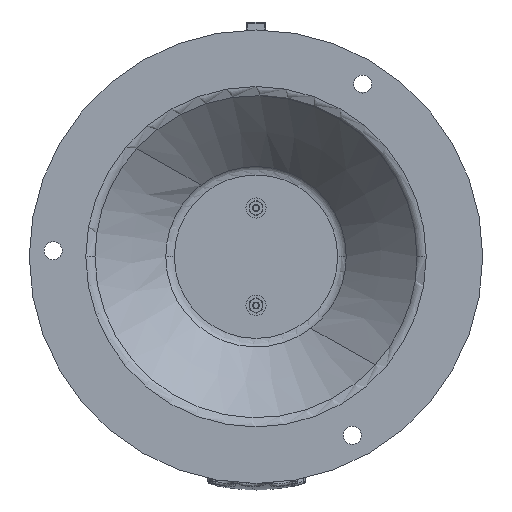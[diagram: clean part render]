
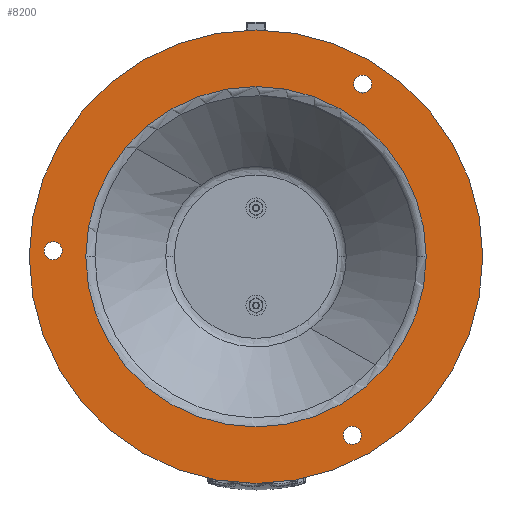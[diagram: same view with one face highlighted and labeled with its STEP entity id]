
A CAD part, front view. The second image highlights one B-rep face of the part: STEP entity #8200.
In plain terms, the highlighted planar face has unit normal (0, -1, 0).
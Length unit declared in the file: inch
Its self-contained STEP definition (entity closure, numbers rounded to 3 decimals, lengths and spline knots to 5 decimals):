
#142 = CARTESIAN_POINT ( 'NONE',  ( 0., -2.425, 0. ) ) ;
#488 = CARTESIAN_POINT ( 'NONE',  ( 0., -2.425, -6.28125 ) ) ;
#711 = DIRECTION ( 'NONE',  ( 0., -1., 0. ) ) ;
#714 = EDGE_CURVE ( 'NONE', #4309, #43173, #29360, .T. ) ;
#1854 = DIRECTION ( 'NONE',  ( 0., 1., 0. ) ) ;
#2339 = CARTESIAN_POINT ( 'NONE',  ( 0., -2.425, 0. ) ) ;
#2499 = AXIS2_PLACEMENT_3D ( 'NONE', #22977, #1854, #26471 ) ;
#2850 = CARTESIAN_POINT ( 'NONE',  ( -4.78341, -2.425, 2.95253 ) ) ;
#2861 = VERTEX_POINT ( 'NONE', #22207 ) ;
#3419 = CARTESIAN_POINT ( 'NONE',  ( 0., -2.425, 4.71475 ) ) ;
#3597 = CARTESIAN_POINT ( 'NONE',  ( -0.16527, -2.425, -5.86882 ) ) ;
#3683 = DIRECTION ( 'NONE',  ( 0., 0., -1. ) ) ;
#4042 = EDGE_LOOP ( 'NONE', ( #17242, #41869 ) ) ;
#4309 = VERTEX_POINT ( 'NONE', #25353 ) ;
#4894 = CIRCLE ( 'NONE', #18032, 0.25 ) ;
#5023 = CIRCLE ( 'NONE', #14653, 4.71475 ) ;
#5264 = VERTEX_POINT ( 'NONE', #11408 ) ;
#5853 = DIRECTION ( 'NONE',  ( 0., 0., -1. ) ) ;
#6358 = DIRECTION ( 'NONE',  ( 0., 0., 1. ) ) ;
#6578 = CIRCLE ( 'NONE', #36205, 6.28125 ) ;
#7088 = CIRCLE ( 'NONE', #29160, 6.28125 ) ;
#7112 = FACE_OUTER_BOUND ( 'NONE', #36425, .T. ) ;
#8200 = ADVANCED_FACE ( 'NONE', ( #44595, #35223, #25861, #16534, #7112 ), #10686, .T. ) ;
#8241 = DIRECTION ( 'NONE',  ( 0., 1., 0. ) ) ;
#8691 = VERTEX_POINT ( 'NONE', #488 ) ;
#9745 = EDGE_CURVE ( 'NONE', #18243, #5264, #40597, .T. ) ;
#10686 = PLANE ( 'NONE',  #31858 ) ;
#11408 = CARTESIAN_POINT ( 'NONE',  ( -4.78341, -2.425, 2.70253 ) ) ;
#11630 = EDGE_CURVE ( 'NONE', #43173, #4309, #43781, .T. ) ;
#12847 = DIRECTION ( 'NONE',  ( 0., 1., 0. ) ) ;
#13555 = CARTESIAN_POINT ( 'NONE',  ( -4.78341, -2.425, 3.20253 ) ) ;
#13865 = DIRECTION ( 'NONE',  ( 0., -1., 0. ) ) ;
#14413 = DIRECTION ( 'NONE',  ( 0., -1., 0. ) ) ;
#14653 = AXIS2_PLACEMENT_3D ( 'NONE', #142, #24777, #3683 ) ;
#14692 = DIRECTION ( 'NONE',  ( 0., 1., 0. ) ) ;
#15892 = DIRECTION ( 'NONE',  ( 0., 1., 0. ) ) ;
#16407 = VERTEX_POINT ( 'NONE', #25962 ) ;
#16534 = FACE_BOUND ( 'NONE', #35202, .T. ) ;
#17242 = ORIENTED_EDGE ( 'NONE', *, *, #9745, .T. ) ;
#18032 = AXIS2_PLACEMENT_3D ( 'NONE', #33916, #12847, #37482 ) ;
#18243 = VERTEX_POINT ( 'NONE', #13555 ) ;
#20184 = EDGE_CURVE ( 'NONE', #43761, #16407, #5023, .T. ) ;
#21598 = EDGE_LOOP ( 'NONE', ( #23614, #27538 ) ) ;
#21738 = EDGE_CURVE ( 'NONE', #8691, #27421, #6578, .T. ) ;
#21845 = CARTESIAN_POINT ( 'NONE',  ( 0., -2.425, 0. ) ) ;
#22207 = CARTESIAN_POINT ( 'NONE',  ( -0.16527, -2.425, -5.36882 ) ) ;
#22977 = CARTESIAN_POINT ( 'NONE',  ( -4.78341, -2.425, 2.95253 ) ) ;
#23235 = AXIS2_PLACEMENT_3D ( 'NONE', #35750, #14692, #39300 ) ;
#23495 = ORIENTED_EDGE ( 'NONE', *, *, #24793, .T. ) ;
#23614 = ORIENTED_EDGE ( 'NONE', *, *, #714, .T. ) ;
#24004 = AXIS2_PLACEMENT_3D ( 'NONE', #29351, #8241, #32902 ) ;
#24016 = DIRECTION ( 'NONE',  ( 0., 0., 1. ) ) ;
#24358 = AXIS2_PLACEMENT_3D ( 'NONE', #2339, #26941, #5853 ) ;
#24588 = CIRCLE ( 'NONE', #28151, 0.25 ) ;
#24777 = DIRECTION ( 'NONE',  ( 0., 1., 0. ) ) ;
#24793 = EDGE_CURVE ( 'NONE', #32378, #2861, #4894, .T. ) ;
#25353 = CARTESIAN_POINT ( 'NONE',  ( 4.94867, -2.425, 2.91629 ) ) ;
#25355 = DIRECTION ( 'NONE',  ( 0., 0., -1. ) ) ;
#25861 = FACE_BOUND ( 'NONE', #21598, .T. ) ;
#25962 = CARTESIAN_POINT ( 'NONE',  ( 0., -2.425, -4.71475 ) ) ;
#25979 = AXIS2_PLACEMENT_3D ( 'NONE', #28060, #15892, #24016 ) ;
#26227 = CIRCLE ( 'NONE', #24358, 4.71475 ) ;
#26471 = DIRECTION ( 'NONE',  ( 0., 0., 1. ) ) ;
#26599 = EDGE_CURVE ( 'NONE', #16407, #43761, #26227, .T. ) ;
#26886 = ORIENTED_EDGE ( 'NONE', *, *, #20184, .T. ) ;
#26937 = EDGE_CURVE ( 'NONE', #5264, #18243, #24588, .T. ) ;
#26941 = DIRECTION ( 'NONE',  ( 0., 1., 0. ) ) ;
#27421 = VERTEX_POINT ( 'NONE', #45428 ) ;
#27438 = DIRECTION ( 'NONE',  ( 0., 1., 0. ) ) ;
#27538 = ORIENTED_EDGE ( 'NONE', *, *, #11630, .T. ) ;
#27622 = CARTESIAN_POINT ( 'NONE',  ( 4.94867, -2.425, 2.41629 ) ) ;
#27888 = ORIENTED_EDGE ( 'NONE', *, *, #21738, .T. ) ;
#28060 = CARTESIAN_POINT ( 'NONE',  ( 4.94867, -2.425, 2.66629 ) ) ;
#28151 = AXIS2_PLACEMENT_3D ( 'NONE', #2850, #27438, #6358 ) ;
#29160 = AXIS2_PLACEMENT_3D ( 'NONE', #21845, #711, #25355 ) ;
#29210 = CIRCLE ( 'NONE', #24004, 0.25 ) ;
#29351 = CARTESIAN_POINT ( 'NONE',  ( -0.16527, -2.425, -5.61882 ) ) ;
#29360 = CIRCLE ( 'NONE', #25979, 0.25 ) ;
#31772 = CARTESIAN_POINT ( 'NONE',  ( 0., -2.425, 0. ) ) ;
#31858 = AXIS2_PLACEMENT_3D ( 'NONE', #31772, #14413, #39017 ) ;
#32378 = VERTEX_POINT ( 'NONE', #3597 ) ;
#32902 = DIRECTION ( 'NONE',  ( 0., 0., 1. ) ) ;
#33916 = CARTESIAN_POINT ( 'NONE',  ( -0.16527, -2.425, -5.61882 ) ) ;
#34482 = EDGE_CURVE ( 'NONE', #2861, #32378, #29210, .T. ) ;
#34920 = CARTESIAN_POINT ( 'NONE',  ( 0., -2.425, 0. ) ) ;
#34958 = ORIENTED_EDGE ( 'NONE', *, *, #26599, .T. ) ;
#35202 = EDGE_LOOP ( 'NONE', ( #34958, #26886 ) ) ;
#35223 = FACE_BOUND ( 'NONE', #38786, .T. ) ;
#35750 = CARTESIAN_POINT ( 'NONE',  ( 4.94867, -2.425, 2.66629 ) ) ;
#36205 = AXIS2_PLACEMENT_3D ( 'NONE', #34920, #13865, #38484 ) ;
#36425 = EDGE_LOOP ( 'NONE', ( #40170, #27888 ) ) ;
#37482 = DIRECTION ( 'NONE',  ( 0., 0., 1. ) ) ;
#38484 = DIRECTION ( 'NONE',  ( 0., 0., -1. ) ) ;
#38786 = EDGE_LOOP ( 'NONE', ( #45649, #23495 ) ) ;
#39017 = DIRECTION ( 'NONE',  ( 0., 0., -1. ) ) ;
#39300 = DIRECTION ( 'NONE',  ( 0., 0., 1. ) ) ;
#40170 = ORIENTED_EDGE ( 'NONE', *, *, #41630, .T. ) ;
#40597 = CIRCLE ( 'NONE', #2499, 0.25 ) ;
#41630 = EDGE_CURVE ( 'NONE', #27421, #8691, #7088, .T. ) ;
#41869 = ORIENTED_EDGE ( 'NONE', *, *, #26937, .T. ) ;
#43173 = VERTEX_POINT ( 'NONE', #27622 ) ;
#43761 = VERTEX_POINT ( 'NONE', #3419 ) ;
#43781 = CIRCLE ( 'NONE', #23235, 0.25 ) ;
#44595 = FACE_BOUND ( 'NONE', #4042, .T. ) ;
#45428 = CARTESIAN_POINT ( 'NONE',  ( 0., -2.425, 6.28125 ) ) ;
#45649 = ORIENTED_EDGE ( 'NONE', *, *, #34482, .T. ) ;
